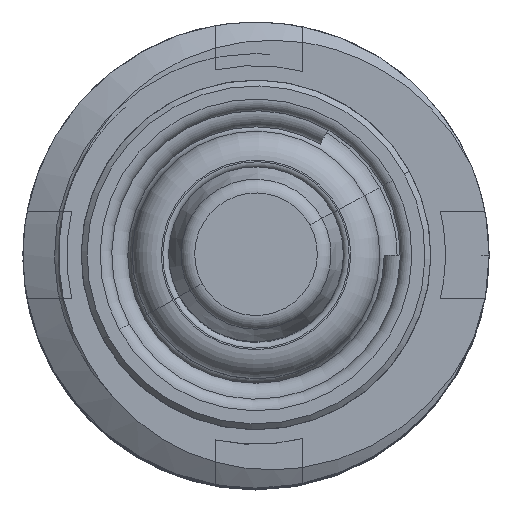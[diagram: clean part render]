
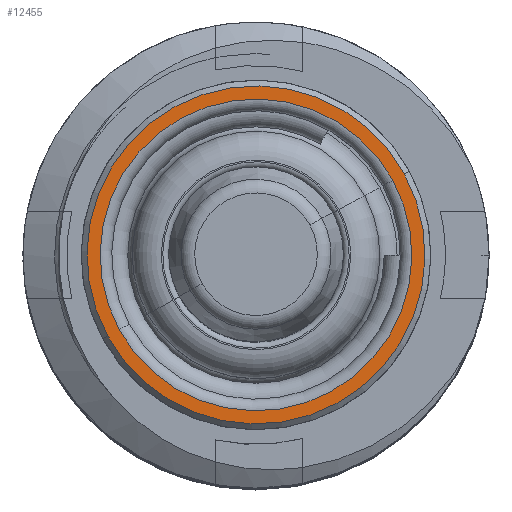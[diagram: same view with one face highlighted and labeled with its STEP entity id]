
A CAD part, top view. The second image highlights one B-rep face of the part: STEP entity #12455.
In plain terms, the highlighted planar face has unit normal (0, 0, 1).
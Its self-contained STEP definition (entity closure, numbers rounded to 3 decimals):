
#12308 = VERTEX_POINT('',#12309);
#12309 = CARTESIAN_POINT('',(-4.695,-2.565,54.5));
#12318 = VERTEX_POINT('',#12319);
#12319 = CARTESIAN_POINT('',(4.695,2.565,54.5));
#12326 = EDGE_CURVE('',#12318,#12308,#12327,.T.);
#12327 = CIRCLE('',#12328,5.35);
#12328 = AXIS2_PLACEMENT_3D('',#12329,#12330,#12331);
#12329 = CARTESIAN_POINT('',(0.,0.,54.5));
#12330 = DIRECTION('',(0.,0.,1.));
#12331 = DIRECTION('',(1.,0.,-0.));
#12344 = EDGE_CURVE('',#12308,#12318,#12345,.T.);
#12345 = CIRCLE('',#12346,5.35);
#12346 = AXIS2_PLACEMENT_3D('',#12347,#12348,#12349);
#12347 = CARTESIAN_POINT('',(0.,0.,54.5));
#12348 = DIRECTION('',(0.,0.,1.));
#12349 = DIRECTION('',(1.,0.,-0.));
#12360 = VERTEX_POINT('',#12361);
#12361 = CARTESIAN_POINT('',(-5.09,-2.781,54.5));
#12369 = EDGE_CURVE('',#12360,#12370,#12372,.T.);
#12370 = VERTEX_POINT('',#12371);
#12371 = CARTESIAN_POINT('',(5.09,2.781,54.5));
#12372 = CIRCLE('',#12373,5.8);
#12373 = AXIS2_PLACEMENT_3D('',#12374,#12375,#12376);
#12374 = CARTESIAN_POINT('',(0.,0.,54.5));
#12375 = DIRECTION('',(0.,0.,-1.));
#12376 = DIRECTION('',(-1.,0.,-0.));
#12402 = EDGE_CURVE('',#12370,#12360,#12403,.T.);
#12403 = CIRCLE('',#12404,5.8);
#12404 = AXIS2_PLACEMENT_3D('',#12405,#12406,#12407);
#12405 = CARTESIAN_POINT('',(0.,0.,54.5));
#12406 = DIRECTION('',(0.,0.,-1.));
#12407 = DIRECTION('',(-1.,0.,-0.));
#12455 = ADVANCED_FACE('',(#12456,#12460),#12464,.T.);
#12456 = FACE_BOUND('',#12457,.T.);
#12457 = EDGE_LOOP('',(#12458,#12459));
#12458 = ORIENTED_EDGE('',*,*,#12402,.F.);
#12459 = ORIENTED_EDGE('',*,*,#12369,.F.);
#12460 = FACE_BOUND('',#12461,.T.);
#12461 = EDGE_LOOP('',(#12462,#12463));
#12462 = ORIENTED_EDGE('',*,*,#12326,.F.);
#12463 = ORIENTED_EDGE('',*,*,#12344,.F.);
#12464 = PLANE('',#12465);
#12465 = AXIS2_PLACEMENT_3D('',#12466,#12467,#12468);
#12466 = CARTESIAN_POINT('',(5.8,0.,54.5));
#12467 = DIRECTION('',(0.,0.,1.));
#12468 = DIRECTION('',(1.,0.,-0.));
